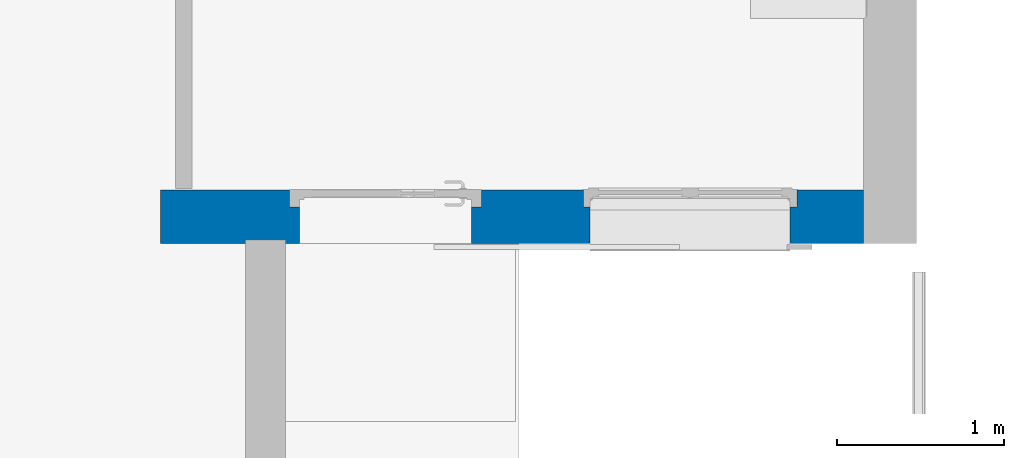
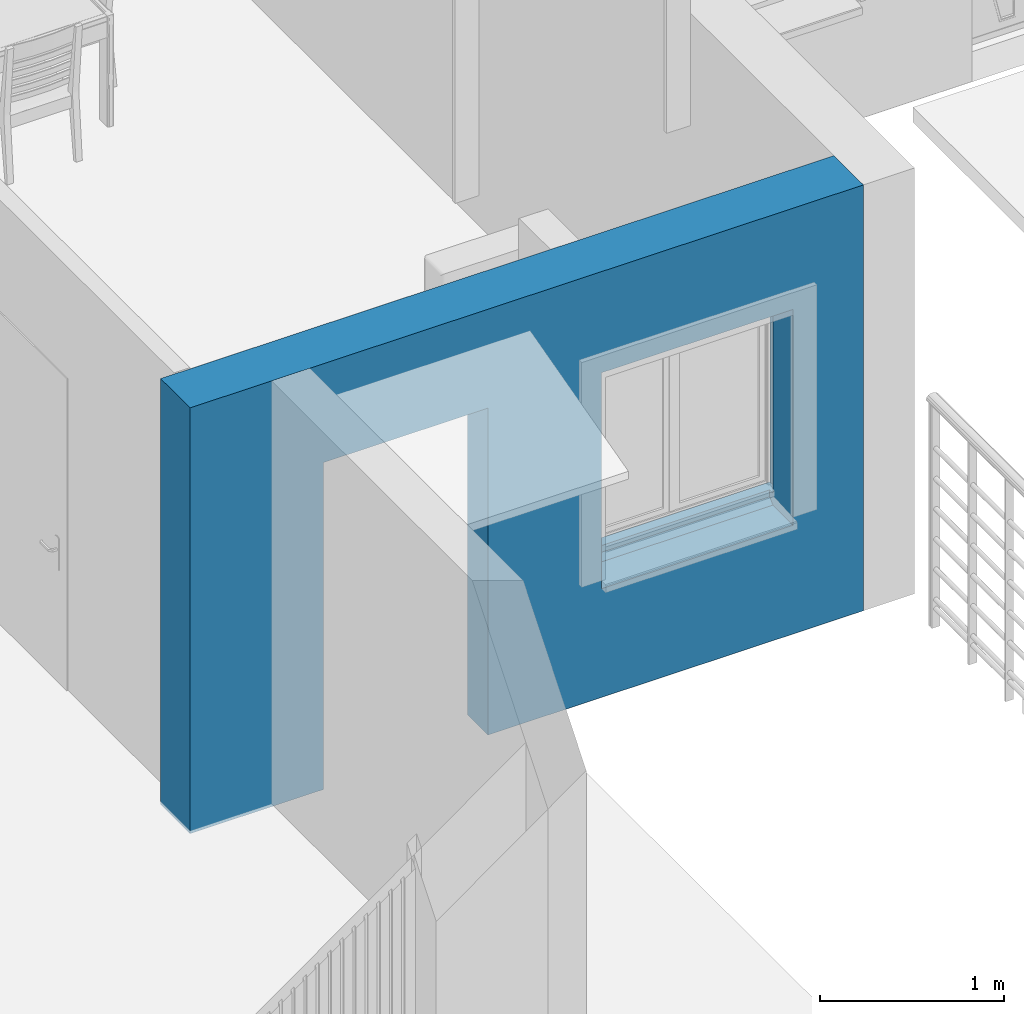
# One storey, part 8 of 33: 1 wall, 2 openings.
"""IFC2X3 building model written with IfcOpenShell, lengths in metres."""

import ifcopenshell
import ifcopenshell.guid

model = None  # the IFC model being written
_history = None  # IfcOwnerHistory: only IFC2X3 demands one
_inside = {}  # id of a spatial element -> (the spatial element, [elements in it])
_under = {}  # id of a project, library or spatial element -> (it, [spatial elements below it])
_declared = {}  # id of a project -> (the project, [libraries it declares])
_typed = {}  # id of a type object -> (the type object, [elements of that type])
_made_of = {}  # id of a material, layer set ... -> (it, [elements and type objects made of it])


def new_model(schema):
    """Start an empty IFC model of exactly this schema.

    Asked for "IFC4X3", IfcOpenShell would pick the latest addendum, in which some entities
    have other attributes; the version numbers below select the first issue.
    IFC2X3 requires an IfcOwnerHistory on every rooted entity: one is made here for all.
    """
    global model, _history
    if schema == "IFC4X3":
        model = ifcopenshell.file(schema_version=(4, 3, 0, 0))
    else:
        model = ifcopenshell.file(schema=schema)
    _inside.clear()
    _under.clear()
    _declared.clear()
    _typed.clear()
    _made_of.clear()
    _history = None
    if model.schema == "IFC2X3":
        org = make("IfcOrganization", Name="unknown")
        user = make(
            "IfcPersonAndOrganization",
            ThePerson=make("IfcPerson", FamilyName="unknown"),
            TheOrganization=org,
        )
        app = make(
            "IfcApplication",
            ApplicationDeveloper=org,
            Version="unknown",
            ApplicationFullName="unknown",
            ApplicationIdentifier="unknown",
        )
        _history = make(
            "IfcOwnerHistory",
            OwningUser=user,
            OwningApplication=app,
            ChangeAction="ADDED",
            CreationDate=0,
        )
    return model


def make(cls, **values):
    """One entity of the class cls with the attributes given. An attribute that is None is left unset."""
    return model.create_entity(
        cls, **{name: value for name, value in values.items() if value is not None}
    )


def entity(cls, *values):
    """Any entity or typed value of the class cls, its attributes in the order of the schema. None: left unset."""
    e = model.create_entity(cls)
    for i, value in enumerate(values):
        if value is not None:
            e[i] = value
    return e


def rooted(cls, **values):
    """An entity with a GlobalId (a new one), such as an element, a storey or a relation."""
    return make(cls, GlobalId=ifcopenshell.guid.new(), OwnerHistory=_history, **values)


def si_unit(unit_type, name, prefix=None):
    """IfcSIUnit, for example si_unit("LENGTHUNIT", "METRE", prefix="MILLI")."""
    return make("IfcSIUnit", UnitType=unit_type, Prefix=prefix, Name=name)


def converted_unit(unit_type, name, factor, base, dimensions=None, offset=None):
    """IfcConversionBasedUnit, such as the inch: factor (a typed value) times the base unit."""
    return make(
        "IfcConversionBasedUnit"
        if offset is None
        else "IfcConversionBasedUnitWithOffset",
        ConversionOffset=offset,
        Dimensions=None
        if dimensions is None
        else entity("IfcDimensionalExponents", *dimensions),
        UnitType=unit_type,
        Name=name,
        ConversionFactor=make(
            "IfcMeasureWithUnit", ValueComponent=factor, UnitComponent=base
        ),
    )


def derived_unit(unit_type, elements):
    """IfcDerivedUnit: a product of units, each with its exponent."""
    return make(
        "IfcDerivedUnit",
        Elements=[
            make("IfcDerivedUnitElement", Unit=unit, Exponent=power)
            for unit, power in elements
        ],
        UnitType=unit_type,
    )


def assignment(units):
    """IfcUnitAssignment: the units of a project."""
    return None if units is None else make("IfcUnitAssignment", Units=units)


def point(xyz):
    """IfcCartesianPoint."""
    return None if xyz is None else make("IfcCartesianPoint", Coordinates=xyz)


def direction(xyz):
    """IfcDirection."""
    return None if xyz is None else make("IfcDirection", DirectionRatios=xyz)


def frame(location, z_axis=None, x_axis=None):
    """IfcAxis2Placement3D, a coordinate frame: its origin and axes. An axis left out is left unset."""
    return make(
        "IfcAxis2Placement3D",
        Location=point(location),
        Axis=direction(z_axis),
        RefDirection=direction(x_axis),
    )


def frame_2d(location, x_axis=None):
    """IfcAxis2Placement2D, a coordinate frame in the plane: its origin and x axis."""
    return make(
        "IfcAxis2Placement2D", Location=point(location), RefDirection=direction(x_axis)
    )


def origin():
    """The frame at (0, 0, 0) with its axes left unset."""
    return frame((0.0, 0.0, 0.0))


def place(relative_to, where):
    """IfcLocalPlacement: puts the frame where relative to a parent placement (None: the world)."""
    return make(
        "IfcLocalPlacement", PlacementRelTo=relative_to, RelativePlacement=where
    )


def context(
    kind, dimensions, precision=None, world=None, true_north=None, identifier=None
):
    """IfcGeometricRepresentationContext, for example the 3D "Model" context."""
    return make(
        "IfcGeometricRepresentationContext",
        ContextIdentifier=identifier,
        ContextType=kind,
        CoordinateSpaceDimension=dimensions,
        Precision=precision,
        WorldCoordinateSystem=world,
        TrueNorth=true_north,
    )


def subcontext(parent, identifier, kind, view, scale=None):
    """IfcGeometricRepresentationSubContext, for example "Body" below "Model"."""
    return make(
        "IfcGeometricRepresentationSubContext",
        ContextIdentifier=identifier,
        ContextType=kind,
        ParentContext=parent,
        TargetScale=scale,
        TargetView=view,
    )


def project(units=None, contexts=None):
    """IfcProject with its units and contexts."""
    return rooted(
        "IfcProject",
        Name="project",
        RepresentationContexts=contexts,
        UnitsInContext=assignment(units),
    )


def spatial(cls, under=None, at=None, **own):
    """A site, building, storey or space (cls), placed at a placement, below another one or the project."""
    s = rooted(cls, ObjectPlacement=at, **own)
    if under is not None:
        _under.setdefault(under.id(), (under, []))[1].append(s)
    return s


def profile(cls, at=None, kind="AREA", **sizes):
    """A parametric profile (cls). Its sizes go by their IFC names, for example OverallWidth=200.0."""
    return make(cls, ProfileType=kind, Position=at, **sizes)


def rectangle(**sizes):
    """IfcRectangleProfileDef."""
    return profile("IfcRectangleProfileDef", **sizes)


def extrude(swept, where, along, depth):
    """IfcExtrudedAreaSolid: the profile swept, set in the frame where, extruded along a direction by depth."""
    return make(
        "IfcExtrudedAreaSolid",
        SweptArea=swept,
        Position=where,
        ExtrudedDirection=direction(along),
        Depth=depth,
    )


def faces_of(points, faces, orient=None, outer=None):
    """IfcFace entities. A face is a list of loops; a loop is a list of indices into points, from 0.

    orient and outer hold one flag for each loop. By default every Orientation is true, the
    first loop of a face is its IfcFaceOuterBound and the others are IfcFaceBound.
    """
    made = []
    for i, loops in enumerate(faces):
        bounds = []
        for j, loop in enumerate(loops):
            is_outer = j == 0 if outer is None else outer[i][j]
            bounds.append(
                make(
                    "IfcFaceOuterBound" if is_outer else "IfcFaceBound",
                    Bound=make("IfcPolyLoop", Polygon=[points[k] for k in loop]),
                    Orientation=True if orient is None else orient[i][j],
                )
            )
        made.append(make("IfcFace", Bounds=bounds))
    return made


def faceted_brep(points, faces, orient=None, outer=None, voids=None):
    """IfcFacetedBrep: a solid bounded by flat faces; with voids (closed shells), ...WithVoids."""
    shared = [point(p) for p in points]
    hull = make("IfcClosedShell", CfsFaces=faces_of(shared, faces, orient, outer))
    if voids is None:
        return make("IfcFacetedBrep", Outer=hull)
    return make(
        "IfcFacetedBrepWithVoids",
        Outer=hull,
        Voids=[
            make(cls, CfsFaces=faces_of(shared, fs, o, b)) for cls, fs, o, b in voids
        ],
    )


def shape(context_of_items, identifier, shape_type, items):
    """IfcShapeRepresentation: the items that make up one representation, for example the "Body"."""
    return make(
        "IfcShapeRepresentation",
        ContextOfItems=context_of_items,
        RepresentationIdentifier=identifier,
        RepresentationType=shape_type,
        Items=items,
    )


def material(Name=None, Category=None):
    """IfcMaterial."""
    return make("IfcMaterial", Name=Name, Category=Category)


def layer(
    of_material, thickness, ventilated=None, Name=None, Category=None, Priority=None
):
    """IfcMaterialLayer: one layer of a wall or slab, of a material (None: an air gap)."""
    return make(
        "IfcMaterialLayer",
        Material=of_material,
        LayerThickness=thickness,
        IsVentilated=ventilated,
        Name=Name,
        Category=Category,
        Priority=Priority,
    )


def layer_set(layers, Name=None):
    """IfcMaterialLayerSet."""
    return make("IfcMaterialLayerSet", MaterialLayers=layers, LayerSetName=Name)


def layer_usage(for_layer_set, set_direction, sense, offset, extent=None):
    """IfcMaterialLayerSetUsage: how a layer set lies in its element."""
    return make(
        "IfcMaterialLayerSetUsage",
        ForLayerSet=for_layer_set,
        LayerSetDirection=set_direction,
        DirectionSense=sense,
        OffsetFromReferenceLine=offset,
        ReferenceExtent=extent,
    )


def made_of(thing, what):
    """Note that an element or type object is made of a material, layer set ...; save() writes the relation."""
    if what is not None:
        _made_of.setdefault(what.id(), (what, []))[1].append(thing)
    return thing


def type_object(cls, material=None, **own):
    """A type object (cls), such as IfcWallType, which elements share."""
    return made_of(rooted(cls, **own), material)


def element(
    cls,
    number,
    at=None,
    inside=None,
    cuts=None,
    type_object=None,
    material=None,
    context=None,
    identifier="Body",
    shape_type=None,
    held_by="IfcProductDefinitionShape",
    body=None,
    shapes=None,
    **own,
):
    """One element of the class cls, such as IfcWall. Its Tag is "e" and its number.

    at: its placement. inside: the storey or other place that contains it. cuts: it is an
    opening in that element (IfcRelVoidsElement). A single representation is given by context,
    identifier, shape_type and body (its items); several are given by shapes. held_by: the class
    of the entity that holds the representations. save() writes the other relations.
    """
    e = rooted(cls, Tag="e%d" % number, ObjectPlacement=at, **own)
    if body is not None:
        shapes = [shape(context, identifier, shape_type, body)]
    if shapes is not None:
        e.Representation = make(held_by, Representations=shapes)
    if inside is not None:
        _inside.setdefault(inside.id(), (inside, []))[1].append(e)
    if cuts is not None:
        rooted(
            "IfcRelVoidsElement", RelatingBuildingElement=cuts, RelatedOpeningElement=e
        )
    if type_object is not None:
        _typed.setdefault(type_object.id(), (type_object, []))[1].append(e)
    return made_of(e, material)


def aggregate(whole, parts):
    """IfcRelAggregates: a whole, such as a stair, and the parts it consists of."""
    return rooted("IfcRelAggregates", RelatingObject=whole, RelatedObjects=parts)


def save(model, path):
    """Write the relations noted so far, then the file.

    IfcRelAggregates (storeys below a building ...), IfcRelContainedInSpatialStructure (elements
    in a storey), IfcRelDefinesByType, IfcRelAssociatesMaterial and IfcRelDeclares: one each for
    every whole, place, type object, material and project.
    """
    for whole, parts in _under.values():
        aggregate(whole, parts)
    for where, things in _inside.values():
        rooted(
            "IfcRelContainedInSpatialStructure",
            RelatedElements=things,
            RelatingStructure=where,
        )
    for kind, things in _typed.values():
        rooted("IfcRelDefinesByType", RelatedObjects=things, RelatingType=kind)
    for what, things in _made_of.values():
        rooted("IfcRelAssociatesMaterial", RelatedObjects=things, RelatingMaterial=what)
    for by, libraries in _declared.values():
        rooted("IfcRelDeclares", RelatingContext=by, RelatedDefinitions=libraries)
    model.write(path)


model = new_model("IFC2X3")

# Units and contexts
model_context = context("Model", 3, precision=1e-05, world=origin(), true_north=direction((6.12303176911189e-17, 1.0)))
context_of_model = context(None, 3, precision=1e-05, world=origin(), true_north=direction((6.12303176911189e-17, 1.0)))
body_context = subcontext(model_context, "Body", "Model", "MODEL_VIEW")
ifc_project = project(units=[si_unit("LENGTHUNIT", "METRE"), si_unit("AREAUNIT", "SQUARE_METRE"), si_unit("VOLUMEUNIT", "CUBIC_METRE"), converted_unit("PLANEANGLEUNIT", "DEGREE", entity("IfcRatioMeasure", 0.0174532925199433), si_unit("PLANEANGLEUNIT", "RADIAN"), dimensions=[0, 0, 0, 0, 0, 0, 0]), si_unit("MASSUNIT", "GRAM", prefix="KILO"), si_unit("TIMEUNIT", "SECOND"), si_unit("FREQUENCYUNIT", "HERTZ"), si_unit("THERMODYNAMICTEMPERATUREUNIT", "DEGREE_CELSIUS"), derived_unit("THERMALTRANSMITTANCEUNIT", [(si_unit("MASSUNIT", "GRAM", prefix="KILO"), 1), (si_unit("THERMODYNAMICTEMPERATUREUNIT", "KELVIN"), -1), (si_unit("TIMEUNIT", "SECOND"), -3)]), derived_unit("VOLUMETRICFLOWRATEUNIT", [(si_unit("LENGTHUNIT", "METRE"), 3), (si_unit("TIMEUNIT", "SECOND"), -1)]), si_unit("ELECTRICCURRENTUNIT", "AMPERE"), si_unit("ELECTRICVOLTAGEUNIT", "VOLT"), si_unit("POWERUNIT", "WATT"), si_unit("FORCEUNIT", "NEWTON", prefix="KILO"), si_unit("ILLUMINANCEUNIT", "LUX"), si_unit("LUMINOUSFLUXUNIT", "LUMEN"), si_unit("LUMINOUSINTENSITYUNIT", "CANDELA"), si_unit("PRESSUREUNIT", "PASCAL")], contexts=[model_context, context_of_model])

# Site, building, storey
site_placement = place(None, origin())
site = spatial("IfcSite", under=ifc_project, at=site_placement, Name="Surface", CompositionType="ELEMENT")
building_placement = place(site_placement, origin())
building = spatial("IfcBuilding", under=site, at=building_placement, CompositionType="ELEMENT")
storey_placement = place(building_placement, origin())
storey = spatial("IfcBuildingStorey", under=building, at=storey_placement, Name="Plan des fondations  Maisons 1 et 2", CompositionType="ELEMENT", Elevation=0.0)

# Wall, openings
ifc_material_1 = material(Name="Enduit blanc cassé2")
ifc_layer_1 = layer(ifc_material_1, 0.02)
ifc_material_2 = material(Name="Parpaing")
ifc_layer_2 = layer(ifc_material_2, 0.2)
ifc_material_3 = material(Name="Isolant")
ifc_layer_3 = layer(ifc_material_3, 0.1)
ifc_layer_set = layer_set([ifc_layer_1, ifc_layer_2, ifc_layer_3], Name="Mur de base:Ext. Parpaing 20 + Isolant 10 enduit blanc cassé")
ifc_layer_usage = layer_usage(ifc_layer_set, "AXIS2", "NEGATIVE", 0.16)
wall_type = type_object("IfcWallType", Name="Mur de base:Ext. Parpaing 20 + Isolant 10 enduit blanc cassé", PredefinedType="STANDARD", material=ifc_layer_set)
wall_placement = place(storey_placement, frame((75.962889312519, 80.0477566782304, 0.0), z_axis=(0.0, 0.0, 1.0), x_axis=(-1.0, 0.0, 0.0)))
wall = element("IfcWallStandardCase", 1, at=wall_placement, inside=storey, type_object=wall_type, material=ifc_layer_usage, Name="Mur de base:Ext. Parpaing 20 + Isolant 10 enduit blanc cassé", ObjectType="Mur de base:Ext. Parpaing 20 + Isolant 10 enduit blanc cassé", context=body_context, shape_type="SweptSolid", body=[
    extrude(rectangle(XDim=4.21826294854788, YDim=0.319999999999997, at=frame_2d((2.10913147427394, 5.55111512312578e-16), x_axis=(-1.0, 0.0))), origin(), (0.0, 0.0, 1.0), 2.82),
])
opening_1_placement = place(wall_placement, frame((3.44326294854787, 0.499999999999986, 0.0), z_axis=(0.0, 0.0, 1.0), x_axis=(-1.0, 0.0, 0.0)))
element("IfcOpeningElement", 2, at=opening_1_placement, cuts=wall, Name="Mur de base:Ext. Parpaing 20 + Isolant 10 enduit blanc cassé", ObjectType="Opening", context=body_context, shape_type="Brep", body=[
    faceted_brep([(1.09, 0.0, 0.0), (1.09, 0.0, 2.16499999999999), (0.0600000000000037, 0.0, 2.16499999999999), (0.0600000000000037, 0.0, 0.0), (1.09, 1.0, 0.0), (0.0600000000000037, 1.0, 0.0), (0.0600000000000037, 1.0, 2.16499999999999), (1.09, 1.0, 2.16499999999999), (0.0600000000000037, 0.559999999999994, 0.0), (0.0, 0.559999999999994, 0.0), (0.0, 0.910000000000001, 0.0), (0.0600000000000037, 0.910000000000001, 0.0), (1.09, 0.910000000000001, 0.0), (1.15, 0.910000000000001, 0.0), (1.15, 0.559999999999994, 0.0), (1.09, 0.559999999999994, 0.0), (0.0600000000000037, 0.559999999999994, 2.16499999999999), (1.09, 0.559999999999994, 2.16499999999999), (1.15, 0.910000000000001, 2.225), (1.09, 0.910000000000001, 2.16499999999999), (0.0600000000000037, 0.910000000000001, 2.16499999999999), (0.0, 0.910000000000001, 2.225), (1.15, 0.559999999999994, 2.225), (0.0, 0.559999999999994, 2.225)], [[[0, 1, 2, 3]], [[4, 5, 6, 7]], [[0, 3, 8, 9, 10, 11, 5, 4, 12, 13, 14, 15]], [[3, 2, 16, 8]], [[2, 1, 17, 16]], [[1, 0, 15, 17]], [[18, 13, 12, 19, 20, 11, 10, 21]], [[22, 23, 9, 8, 16, 17, 15, 14]], [[18, 21, 23, 22]], [[21, 10, 9, 23]], [[13, 18, 22, 14]], [[4, 7, 19, 12]], [[7, 6, 20, 19]], [[6, 5, 11, 20]]]),
])
opening_2_placement = place(wall_placement, frame((1.69, 0.499999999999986, 0.719999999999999), z_axis=(0.0, 0.0, 1.0), x_axis=(-1.0, 0.0, 0.0)))
element("IfcOpeningElement", 3, at=opening_2_placement, cuts=wall, Name="Mur de base:Ext. Parpaing 20 + Isolant 10 enduit blanc cassé", ObjectType="Opening", context=body_context, shape_type="Brep", body=[
    faceted_brep([(0.050000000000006, 1.0, 1.43), (1.25, 1.0, 1.43), (1.25, 1.0, 0.0799999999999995), (0.050000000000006, 1.0, 0.0799999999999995), (0.0499999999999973, 0.0, 1.43), (0.0499999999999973, 0.0, 0.0799999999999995), (1.24999999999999, 0.0, 0.0799999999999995), (1.24999999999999, 0.0, 1.43), (0.0499999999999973, 0.672999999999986, 1.43), (1.24999999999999, 0.672999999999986, 1.43), (1.25, 0.673000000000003, 0.0799999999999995), (1.29, 0.673000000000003, 0.0799999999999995), (1.29, 0.559999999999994, 0.0799999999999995), (1.25, 0.559999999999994, 0.0799999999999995), (1.25, 0.594999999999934, 0.0799999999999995), (0.0499999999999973, 0.594999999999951, 0.0799999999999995), (0.0499999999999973, 0.559999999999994, 0.0799999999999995), (0.00999999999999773, 0.559999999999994, 0.0799999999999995), (0.00999999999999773, 0.673000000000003, 0.0799999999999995), (0.0499999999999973, 0.673000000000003, 0.0799999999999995), (0.00999999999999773, 0.672999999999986, 1.47), (1.29, 0.672999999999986, 1.47), (1.29, 0.559999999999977, 1.47), (1.3, 0.559999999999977, 1.47), (1.3, 0.559999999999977, 1.65), (0.0, 0.559999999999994, 1.65), (0.0, 0.559999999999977, 1.47), (0.0100000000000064, 0.559999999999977, 1.47), (0.0499999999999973, 0.559999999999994, 1.43), (1.24999999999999, 0.559999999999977, 1.43), (1.3, 0.692999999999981, 1.65), (1.3, 0.692999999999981, 1.47), (0.0, 0.692999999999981, 1.65), (0.0, 0.692999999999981, 1.47), (1.25, 0.559999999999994, 0.0), (0.050000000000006, 0.559999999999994, 0.0), (0.0499999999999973, 0.594999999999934, 0.0349999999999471), (1.25, 0.594999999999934, 0.0349999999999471), (1.24999999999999, 0.294999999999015, 0.0799999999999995), (0.0499999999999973, 0.294999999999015, 0.0799999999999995), (0.0499999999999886, 0.294999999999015, 0.0), (1.25, 0.294999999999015, 0.0)], [[[0, 1, 2, 3]], [[4, 5, 6, 7]], [[0, 8, 9, 1]], [[1, 9, 10, 2]], [[2, 10, 11, 12, 13, 14, 15, 16, 17, 18, 19, 3]], [[3, 19, 8, 0]], [[10, 9, 8, 19, 18, 20, 21, 11]], [[11, 21, 22, 12]], [[12, 22, 23, 24, 25, 26, 27, 17, 16, 28, 29, 13]], [[18, 17, 27, 20]], [[30, 24, 23, 31]], [[32, 33, 26, 25]], [[30, 32, 25, 24]], [[23, 22, 21, 20, 27, 26, 33, 31]], [[31, 33, 32, 30]], [[34, 35, 36, 37]], [[37, 36, 15, 14]], [[38, 39, 40, 41]], [[41, 40, 35, 34]], [[4, 28, 16, 15, 36, 35, 40, 39, 5]], [[5, 39, 38, 6]], [[6, 38, 41, 34, 37, 14, 13, 29, 7]], [[7, 29, 28, 4]]]),
])

save(model, "model.ifc")
